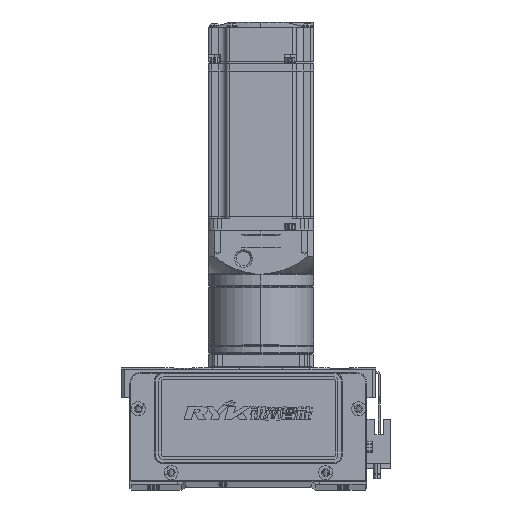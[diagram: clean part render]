
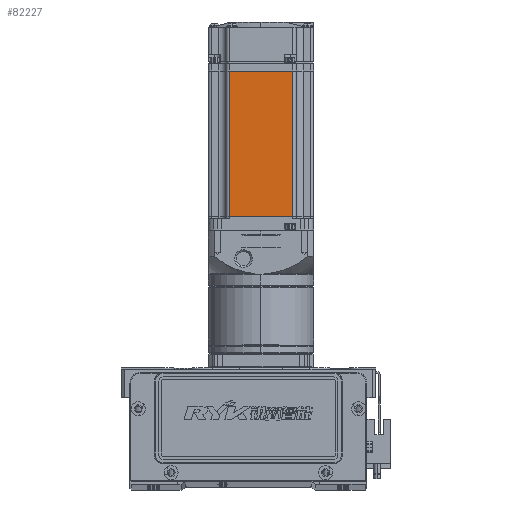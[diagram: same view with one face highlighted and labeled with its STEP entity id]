
A CAD part, top view. The second image highlights one B-rep face of the part: STEP entity #82227.
In plain terms, the highlighted planar face has unit normal (0, 0, 1).
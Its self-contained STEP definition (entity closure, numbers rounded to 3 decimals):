
#2948 = CARTESIAN_POINT ( 'NONE',  ( -7.75, -18., 30. ) ) ;
#5730 = VECTOR ( 'NONE', #52039, 1000. ) ;
#7743 = CARTESIAN_POINT ( 'NONE',  ( -6.5, -25., 30. ) ) ;
#8255 = CARTESIAN_POINT ( 'NONE',  ( -7.75, 0., 30. ) ) ;
#8294 = VECTOR ( 'NONE', #10765, 1000. ) ;
#10765 = DIRECTION ( 'NONE',  ( -1., 0., 0. ) ) ;
#12414 = LINE ( 'NONE', #17097, #8294 ) ;
#12673 = ORIENTED_EDGE ( 'NONE', *, *, #66999, .F. ) ;
#14628 = DIRECTION ( 'NONE',  ( 1., 0., 0. ) ) ;
#17097 = CARTESIAN_POINT ( 'NONE',  ( -6.5, -18., 30. ) ) ;
#17332 = ORIENTED_EDGE ( 'NONE', *, *, #51329, .F. ) ;
#26271 = VECTOR ( 'NONE', #61635, 1000. ) ;
#35619 = CARTESIAN_POINT ( 'NONE',  ( -7.75, 18., 30. ) ) ;
#36141 = AXIS2_PLACEMENT_3D ( 'NONE', #7743, #47851, #14628 ) ;
#38767 = EDGE_CURVE ( 'NONE', #56911, #58499, #47061, .T. ) ;
#41891 = VERTEX_POINT ( 'NONE', #2948 ) ;
#43814 = LINE ( 'NONE', #48351, #26271 ) ;
#44454 = VECTOR ( 'NONE', #79934, 1000. ) ;
#47061 = LINE ( 'NONE', #57796, #5730 ) ;
#47851 = DIRECTION ( 'NONE',  ( 0., 0., 1. ) ) ;
#48351 = CARTESIAN_POINT ( 'NONE',  ( -6.5, 18., 30. ) ) ;
#51329 = EDGE_CURVE ( 'NONE', #41891, #58499, #12414, .T. ) ;
#51698 = LINE ( 'NONE', #8255, #44454 ) ;
#52039 = DIRECTION ( 'NONE',  ( 0., -1., 0. ) ) ;
#53238 = ORIENTED_EDGE ( 'NONE', *, *, #77044, .T. ) ;
#56911 = VERTEX_POINT ( 'NONE', #84149 ) ;
#57796 = CARTESIAN_POINT ( 'NONE',  ( -90.45, 0., 30. ) ) ;
#58499 = VERTEX_POINT ( 'NONE', #59941 ) ;
#59941 = CARTESIAN_POINT ( 'NONE',  ( -90.45, -18., 30. ) ) ;
#61635 = DIRECTION ( 'NONE',  ( -1., 0., 0. ) ) ;
#64026 = EDGE_LOOP ( 'NONE', ( #12673, #53238, #72105, #17332 ) ) ;
#66999 = EDGE_CURVE ( 'NONE', #72225, #41891, #51698, .T. ) ;
#68107 = PLANE ( 'NONE',  #36141 ) ;
#72105 = ORIENTED_EDGE ( 'NONE', *, *, #38767, .T. ) ;
#72225 = VERTEX_POINT ( 'NONE', #35619 ) ;
#77044 = EDGE_CURVE ( 'NONE', #72225, #56911, #43814, .T. ) ;
#79934 = DIRECTION ( 'NONE',  ( 0., -1., 0. ) ) ;
#81006 = FACE_OUTER_BOUND ( 'NONE', #64026, .T. ) ;
#82227 = ADVANCED_FACE ( 'NONE', ( #81006 ), #68107, .T. ) ;
#84149 = CARTESIAN_POINT ( 'NONE',  ( -90.45, 18., 30. ) ) ;
